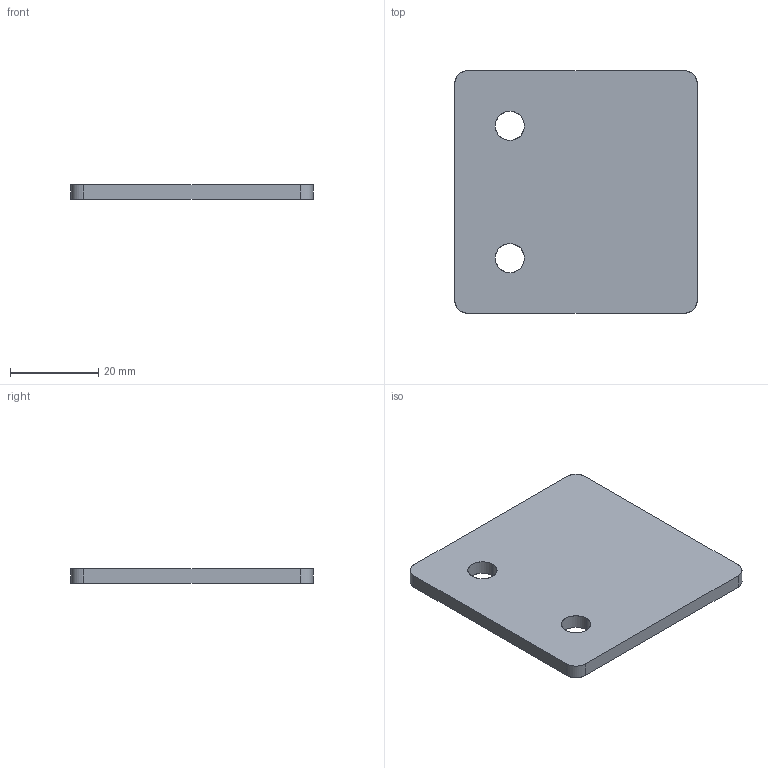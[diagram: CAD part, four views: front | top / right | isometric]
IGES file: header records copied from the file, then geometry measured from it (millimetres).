
Start section: SolidWorks IGES file using analytic representation for surfaces
Global section: file name: C:\Users\sr-d12\Desktop\20230331Rev3\Œ³DATA\J3DRS.IGS; native system: SolidWorks 2019; preprocessor: SolidWorks 2019; author: nakano; date: 230331.135051; units: millimetre
Bounding box: 55 x 55 x 3.2 mm (x, y, z)
Surface area: 6717.9 mm2 (no closed solid volume)
Topology: 0 solids, 0 shells, 14 faces, 248 edges, 248 vertices
Faces by surface type: revolution 8, bspline 6
